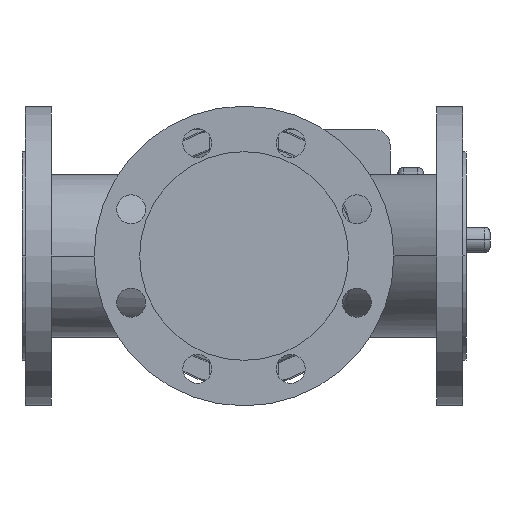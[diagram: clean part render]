
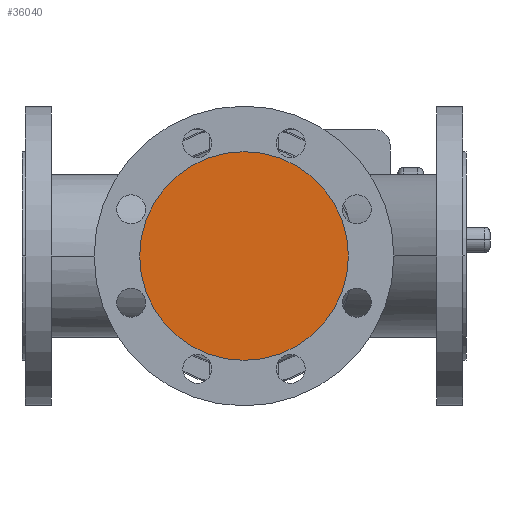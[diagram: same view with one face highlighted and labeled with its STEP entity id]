
A CAD part, front view. The second image highlights one B-rep face of the part: STEP entity #36040.
In plain terms, the highlighted planar face has unit normal (0, -1, 0).
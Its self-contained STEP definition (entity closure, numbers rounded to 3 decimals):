
#8220=CARTESIAN_POINT('',(294.,-200.,0.));
#8230=VERTEX_POINT('',#8220);
#8260=CARTESIAN_POINT('',(200.,-200.,0.));
#8270=DIRECTION('',(0.,1.,0.));
#8280=DIRECTION('',(1.,0.,0.));
#8290=AXIS2_PLACEMENT_3D('',#8260,#8270,#8280);
#8300=CIRCLE('',#8290,94.);
#8310=CARTESIAN_POINT('',(106.,-200.,0.));
#8320=VERTEX_POINT('',#8310);
#8330=EDGE_CURVE('',#8320,#8230,#8300,.T.);
#35940=CARTESIAN_POINT('',(247.,-200.,0.));
#35950=DIRECTION('',(0.,-1.,0.));
#35960=DIRECTION('',(-1.,0.,0.));
#35970=AXIS2_PLACEMENT_3D('',#35940,#35950,#35960);
#35980=PLANE('',#35970);
#35990=EDGE_CURVE('',#8230,#8320,#8300,.T.);
#36000=ORIENTED_EDGE('',*,*,#35990,.F.);
#36010=ORIENTED_EDGE('',*,*,#8330,.F.);
#36020=EDGE_LOOP('',(#36010,#36000));
#36030=FACE_OUTER_BOUND('',#36020,.T.);
#36040=ADVANCED_FACE('',(#36030),#35980,.T.);
